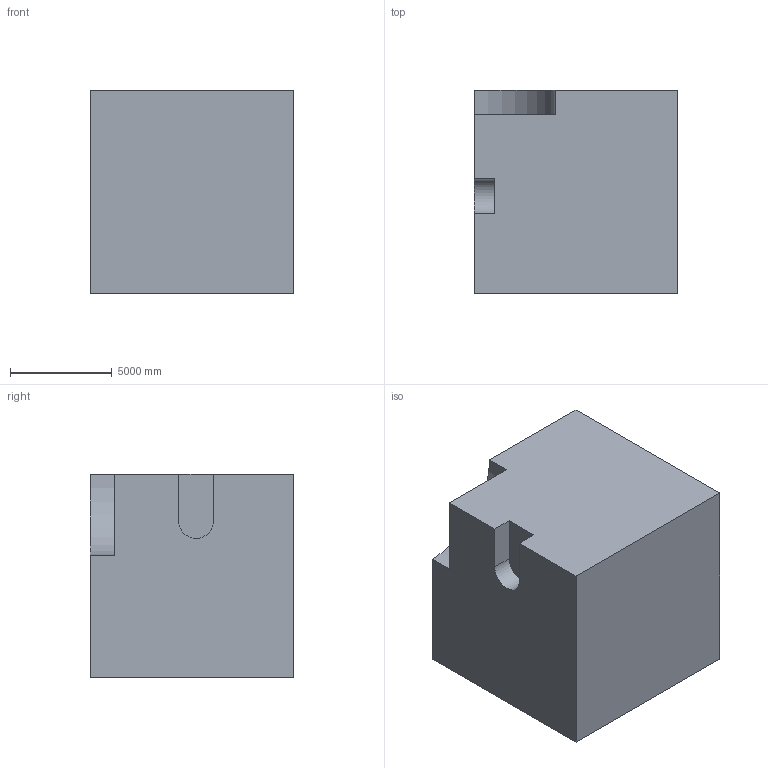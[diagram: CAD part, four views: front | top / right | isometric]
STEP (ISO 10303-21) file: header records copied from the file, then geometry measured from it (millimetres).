
FILE_DESCRIPTION (( 'STEP AP203' ), '1' );
FILE_NAME ('286.STEP', '2022-07-28T14:12:48', ( 'user' ), ( '' ), 'SwSTEP 2.0', 'SolidWorks 2021', '' );
FILE_SCHEMA (( 'CONFIG_CONTROL_DESIGN' ));
Length unit declared in the file: centimetre
Products named in the file (1): 286
Bounding box: 10000 x 10000 x 10000 mm (x, y, z)
Volume: 926710427717.6 mm3; surface area: 672866217.7 mm2
Topology: 1 solids, 1 shells, 17 faces, 42 edges, 28 vertices
Faces by surface type: plane 15, cylinder 2
Entity records: 577 total; most frequent: CARTESIAN_POINT 88, ORIENTED_EDGE 84, DIRECTION 82, EDGE_CURVE 42, VECTOR 38, LINE 38, VERTEX_POINT 28, AXIS2_PLACEMENT_3D 22
